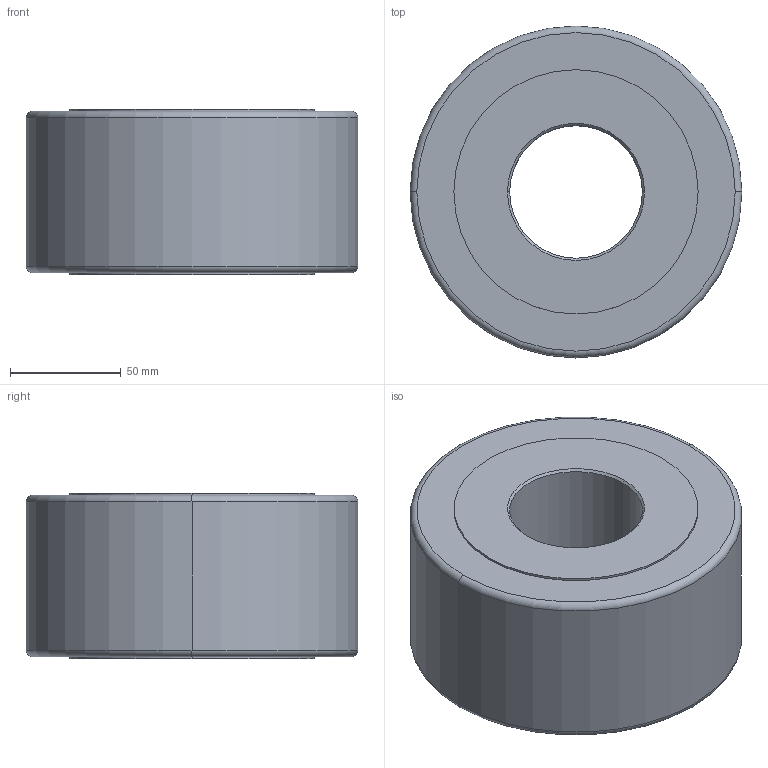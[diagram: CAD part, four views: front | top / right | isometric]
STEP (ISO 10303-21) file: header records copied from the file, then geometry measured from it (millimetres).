
FILE_DESCRIPTION (( 'STEP AP214' ), '1' );
FILE_NAME ('3DRSU60-150.STEP', '2013-12-19T09:37:26', ( 'usuario' ), ( 'Hewlett-Packard Company' ), 'SwSTEP 2.0', 'SolidWorks 2017', '' );
FILE_SCHEMA (( 'AUTOMOTIVE_DESIGN' ));
Length unit declared in the file: millimetre
Products named in the file (1): 3DRSU60-150
Bounding box: 150 x 150 x 75 mm (x, y, z)
Volume: 1095124.7 mm3; surface area: 77479.8 mm2
Topology: 1 solids, 1 shells, 20 faces, 40 edges, 24 vertices
Faces by surface type: cylinder 8, cone 4, torus 4, plane 4
Entity records: 566 total; most frequent: DIRECTION 110, CARTESIAN_POINT 85, ORIENTED_EDGE 80, AXIS2_PLACEMENT_3D 49, EDGE_CURVE 40, CIRCLE 28, VERTEX_POINT 24, EDGE_LOOP 24
